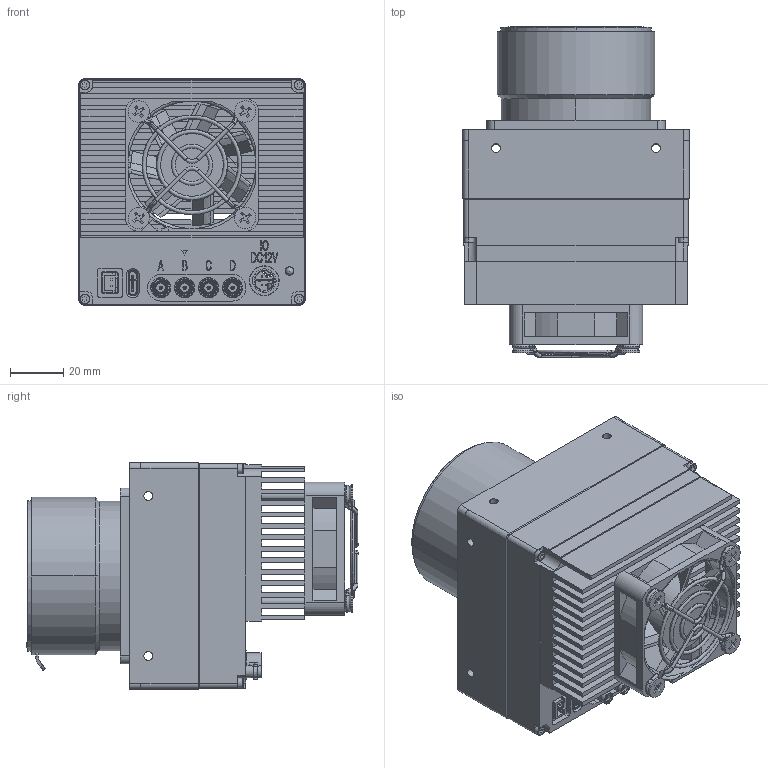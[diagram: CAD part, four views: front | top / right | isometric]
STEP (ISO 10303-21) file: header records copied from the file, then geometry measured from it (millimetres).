
FILE_DESCRIPTION (( 'STEP AP203' ), '1' );
FILE_NAME ('TS65MCXP-71M-A01-V2.0.0-三维模型.STEP', '2022-10-18T01:10:32', ( '微软用户' ), ( '微软中国' ), 'SwSTEP 2.0', 'SolidWorks 2017', '' );
FILE_SCHEMA (( 'CONFIG_CONTROL_DESIGN' ));
Products named in the file (1): TS65MCXP-71M-A01-V2.0.0-三维模型
Bounding box: 85 x 124.61 x 85 mm (x, y, z)
Surface area: 99893.1 mm2 (no closed solid volume)
Topology: 0 solids, 84 shells, 1021 faces, 3829 edges, 2857 vertices
Faces by surface type: plane 488, cylinder 312, bspline 124, cone 74, torus 16, sphere 7
Entity records: 50355 total; most frequent: CARTESIAN_POINT 20228, ORIENTED_EDGE 5913, DIRECTION 5569, EDGE_CURVE 3810, VERTEX_POINT 2846, VECTOR 2089, LINE 2089, AXIS2_PLACEMENT_3D 1740
